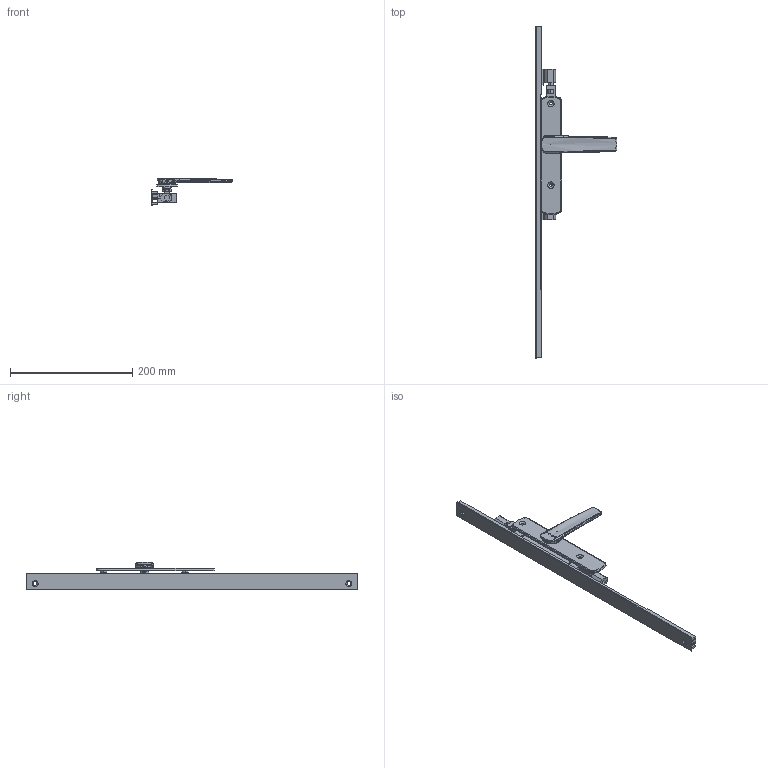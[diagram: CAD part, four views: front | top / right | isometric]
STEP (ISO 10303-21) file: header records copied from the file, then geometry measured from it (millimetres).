
FILE_DESCRIPTION (( 'STEP AP214' ), '1' );
FILE_NAME ('TPL-W-EU-602-U 06Nov2024.STEP', '2024-11-27T01:06:36', ( '' ), ( '' ), 'SwSTEP 2.0', 'SolidWorks 2023', '' );
FILE_SCHEMA (( 'AUTOMOTIVE_DESIGN' ));
Length unit declared in the file: millimetre
Products named in the file (18): Copy of COV-112-A Cover A suit TPLGen2 standard range^TPL-W-EU-102 04Nov2024_1335mm; TPLGen2 push rod - simplified^Copy of TPLGen2 lock body non-keyed assembly_TPL-W-EU-102 04Nov2024_Female thread M10; LKC-531 Lock twinpoint transmission rod wood system^TPL-W-EU-102 04Nov2024_Standard Range 2891.7mm; Copy of Adapter DnF - simplfied^TPL-W-EU-102 04Nov2024_26mm backset; Copy of TPLGen2 lock body non-keyed assembly^TPL-W-EU-102 04Nov2024_Bolts retracted; Copy of LKC-505 Swing handle zinc - simplified^Copy of TPGen2 handle non-keyed short zinc - simplified_TPL-W-EU-102 04Nov2024; COV-112-B Cover B suit TPLGen2 standard range^TPL-W-EU-102 04Nov2024_2870mm; Copy of Adapter CnE - simplfied^TPL-W-EU-102 04Nov2024_26mm backset; Copy of LKC-516 Escutcheon plate unkeyed 195mm long zinc - simplified^Copy of TPGen2 handle non-keyed short zinc - simplified_TPL-W-EU-102 04Nov2024; Copy of LKC-584 Pivot body zinc - simplified^Copy of TPGen2 handle non-keyed short zinc - simplified_TPL-W-EU-102 04Nov2024; Copy of COV-112-C Cover C TPLGen2 Lock body^TPL-W-EU-102 04Nov2024; Copy of LKC-586 Spindle square 8mm with M4 hole^Copy of TPGen2 handle non-keyed short zinc - simplified_TPL-W-EU-102 04Nov2024_25mm; Copy of LKC-585 Rotator body zinc^Copy of TPGen2 handle non-keyed short zinc - simplified_TPL-W-EU-102 04Nov2024; Copy of TPGen2 handle non-keyed short zinc - simplified^TPL-W-EU-102 04Nov2024_Right; TPL-W-EU-602-U 06Nov2024; Bolt(2)^TPL-W-EU-102 04Nov2024; Copy of Copy of LKC-531 Lock twinpoint transmission rod wood system^TPL-W-EU-102 04Nov2024_Standard Range 2891.7mm; Copy of TPLGen2 lock body non-keyed^Copy of TPLGen2 lock body non-keyed assembly_TPL-W-EU-102 04Nov2024
Assembly tree (15 placements, depth 3):
  Copy of COV-112-A Cover A suit TPLGen2 standard range^TPL-W-EU-102 04Nov2024_1335mm
  COV-112-B Cover B suit TPLGen2 standard range^TPL-W-EU-102 04Nov2024_2870mm
  TPL-W-EU-602-U 06Nov2024
    Copy of TPLGen2 lock body non-keyed assembly^TPL-W-EU-102 04Nov2024_Bolts retracted
      Copy of TPLGen2 lock body non-keyed^Copy of TPLGen2 lock body non-keyed assembly_TPL-W-EU-102 04Nov2024
      TPLGen2 push rod - simplified^Copy of TPLGen2 lock body non-keyed assembly_TPL-W-EU-102 04Nov2024_Female thread M10  x2
    Copy of TPGen2 handle non-keyed short zinc - simplified^TPL-W-EU-102 04Nov2024_Right
      Copy of LKC-516 Escutcheon plate unkeyed 195mm long zinc - simplified^Copy of TPGen2 handle non-keyed short zinc - simplified_TPL-W-EU-102 04Nov2024
      Copy of LKC-505 Swing handle zinc - simplified^Copy of TPGen2 handle non-keyed short zinc - simplified_TPL-W-EU-102 04Nov2024
      Copy of LKC-585 Rotator body zinc^Copy of TPGen2 handle non-keyed short zinc - simplified_TPL-W-EU-102 04Nov2024
      Copy of LKC-586 Spindle square 8mm with M4 hole^Copy of TPGen2 handle non-keyed short zinc - simplified_TPL-W-EU-102 04Nov2024_25mm
      Copy of LKC-584 Pivot body zinc - simplified^Copy of TPGen2 handle non-keyed short zinc - simplified_TPL-W-EU-102 04Nov2024
    Copy of COV-112-C Cover C TPLGen2 Lock body^TPL-W-EU-102 04Nov2024
    Copy of Copy of LKC-531 Lock twinpoint transmission rod wood system^TPL-W-EU-102 04Nov2024_Standard Range 2891.7mm
    LKC-531 Lock twinpoint transmission rod wood system^TPL-W-EU-102 04Nov2024_Standard Range 2891.7mm
    Copy of Adapter DnF - simplfied^TPL-W-EU-102 04Nov2024_26mm backset
    Copy of Adapter CnE - simplfied^TPL-W-EU-102 04Nov2024_26mm backset
  Bolt(2)^TPL-W-EU-102 04Nov2024
Bounding box: 134.12 x 544 x 45.86 mm (x, y, z)
Volume: 208678.9 mm3; surface area: 119809.6 mm2
Topology: 13 solids, 13 shells, 851 faces, 2100 edges, 1304 vertices
Faces by surface type: plane 304, bspline 241, cylinder 186, cone 66, torus 46, sphere 8
Entity records: 30683 total; most frequent: CARTESIAN_POINT 12559, ORIENTED_EDGE 4008, DIRECTION 3198, EDGE_CURVE 2004, VERTEX_POINT 1244, AXIS2_PLACEMENT_3D 1157, EDGE_LOOP 898, LINE 884
